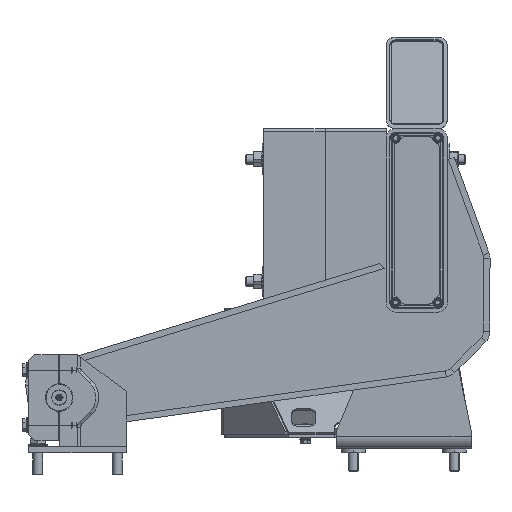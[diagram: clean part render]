
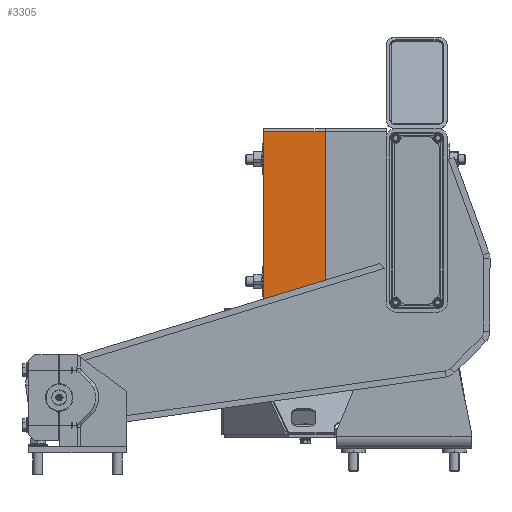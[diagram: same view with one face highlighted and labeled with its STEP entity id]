
A CAD part, left-side view. The second image highlights one B-rep face of the part: STEP entity #3305.
In plain terms, the highlighted planar face has unit normal (-1, 0, 0) as drawn and (0, 0, 1) by its records, which use the part's own axes.
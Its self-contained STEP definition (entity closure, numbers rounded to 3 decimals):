
#530 = CARTESIAN_POINT ( 'NONE',  ( -145., 100., 150. ) ) ;
#1507 = LINE ( 'NONE', #9241, #25948 ) ;
#2057 = ORIENTED_EDGE ( 'NONE', *, *, #22450, .T. ) ;
#3127 = CARTESIAN_POINT ( 'NONE',  ( 145., 0., 150. ) ) ;
#3305 = ADVANCED_FACE ( 'NONE', ( #48771 ), #18449, .F. ) ;
#6739 = LINE ( 'NONE', #530, #46001 ) ;
#7331 = VERTEX_POINT ( 'NONE', #35104 ) ;
#8431 = CARTESIAN_POINT ( 'NONE',  ( -145., 0., 150. ) ) ;
#9035 = LINE ( 'NONE', #41623, #35218 ) ;
#9241 = CARTESIAN_POINT ( 'NONE',  ( -150., 100., 150. ) ) ;
#10723 = EDGE_CURVE ( 'NONE', #30179, #18119, #9035, .T. ) ;
#11485 = CARTESIAN_POINT ( 'NONE',  ( -145., 100., 150. ) ) ;
#18110 = DIRECTION ( 'NONE',  ( 0., 0., -1. ) ) ;
#18119 = VERTEX_POINT ( 'NONE', #3127 ) ;
#18449 = PLANE ( 'NONE',  #34676 ) ;
#19262 = CARTESIAN_POINT ( 'NONE',  ( 145., 100., 150. ) ) ;
#20023 = VERTEX_POINT ( 'NONE', #11485 ) ;
#22295 = DIRECTION ( 'NONE',  ( -1., 0., 0. ) ) ;
#22450 = EDGE_CURVE ( 'NONE', #18119, #7331, #40844, .T. ) ;
#25948 = VECTOR ( 'NONE', #28356, 1000. ) ;
#26854 = DIRECTION ( 'NONE',  ( 0., -1., 0. ) ) ;
#26877 = DIRECTION ( 'NONE',  ( 0., 1., 0. ) ) ;
#27419 = ORIENTED_EDGE ( 'NONE', *, *, #10723, .T. ) ;
#28356 = DIRECTION ( 'NONE',  ( 1., 0., 0. ) ) ;
#30115 = DIRECTION ( 'NONE',  ( 1., 0., 0. ) ) ;
#30179 = VERTEX_POINT ( 'NONE', #8431 ) ;
#34676 = AXIS2_PLACEMENT_3D ( 'NONE', #37550, #18110, #22295 ) ;
#35104 = CARTESIAN_POINT ( 'NONE',  ( 145., 100., 150. ) ) ;
#35218 = VECTOR ( 'NONE', #30115, 1000. ) ;
#37550 = CARTESIAN_POINT ( 'NONE',  ( -150., 100., 150. ) ) ;
#38339 = EDGE_LOOP ( 'NONE', ( #48738, #44261, #27419, #2057 ) ) ;
#40844 = LINE ( 'NONE', #19262, #48624 ) ;
#41623 = CARTESIAN_POINT ( 'NONE',  ( -150., 0., 150. ) ) ;
#44261 = ORIENTED_EDGE ( 'NONE', *, *, #47188, .T. ) ;
#45050 = EDGE_CURVE ( 'NONE', #20023, #7331, #1507, .T. ) ;
#46001 = VECTOR ( 'NONE', #26854, 1000. ) ;
#47188 = EDGE_CURVE ( 'NONE', #20023, #30179, #6739, .T. ) ;
#48624 = VECTOR ( 'NONE', #26877, 1000. ) ;
#48738 = ORIENTED_EDGE ( 'NONE', *, *, #45050, .F. ) ;
#48771 = FACE_OUTER_BOUND ( 'NONE', #38339, .T. ) ;
